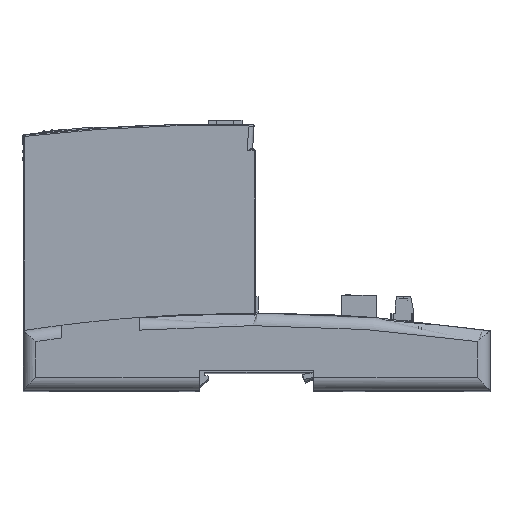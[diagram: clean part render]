
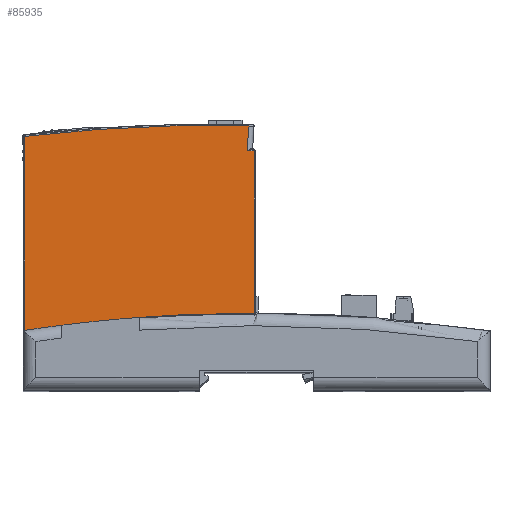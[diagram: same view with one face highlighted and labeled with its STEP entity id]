
A CAD part, top view. The second image highlights one B-rep face of the part: STEP entity #85935.
In plain terms, the highlighted planar face has unit normal (0, 0, 1).
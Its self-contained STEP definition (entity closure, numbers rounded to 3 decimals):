
#8040=DIRECTION('',(0.,1.,0.));
#8041=VECTOR('',#8040,2.4);
#8042=CARTESIAN_POINT('',(152.7,18.7,25.2));
#8043=LINE('',#8042,#8041);
#15013=DIRECTION('',(1.,0.,0.));
#15014=VECTOR('',#15013,3.);
#15015=CARTESIAN_POINT('',(0.6,23.1,25.197));
#15016=LINE('',#15015,#15014);
#15079=DIRECTION('',(0.,-1.,0.));
#15080=VECTOR('',#15079,74.756);
#15081=CARTESIAN_POINT('',(0.6,97.856,25.196));
#15082=LINE('',#15081,#15080);
#15321=CARTESIAN_POINT('',(86.601,92.3,25.196));
#15347=DIRECTION('',(1.,0.,-0.001));
#15348=VECTOR('',#15347,3.);
#15349=CARTESIAN_POINT('',(30.6,21.1,25.2));
#15350=LINE('',#15349,#15348);
#15351=DIRECTION('',(-1.,0.,0.));
#15352=VECTOR('',#15351,25.);
#15353=CARTESIAN_POINT('',(28.6,21.1,25.197));
#15354=LINE('',#15353,#15352);
#15355=DIRECTION('',(0.,1.,0.));
#15356=VECTOR('',#15355,2.);
#15357=CARTESIAN_POINT('',(3.6,21.1,25.197));
#15358=LINE('',#15357,#15356);
#15359=CARTESIAN_POINT('',(71.564,-497.429,25.195));
#15360=DIRECTION('',(0.,0.,-1.));
#15361=DIRECTION('',(-0.118,0.993,0.));
#15362=AXIS2_PLACEMENT_3D('',#15359,#15360,#15361);
#15364=CARTESIAN_POINT('',(178.6,92.8,25.195));
#15365=DIRECTION('',(0.,0.,1.));
#15366=DIRECTION('',(-0.995,0.099,0.));
#15367=AXIS2_PLACEMENT_3D('',#15364,#15365,#15366);
#15369=DIRECTION('',(1.,0.,0.));
#15370=VECTOR('',#15369,2.499);
#15371=CARTESIAN_POINT('',(86.601,92.3,25.196));
#15372=LINE('',#15371,#15370);
#15373=DIRECTION('',(0.,-1.,0.));
#15374=VECTOR('',#15373,71.2);
#15375=CARTESIAN_POINT('',(89.1,92.3,25.196));
#15376=LINE('',#15375,#15374);
#15377=DIRECTION('',(1.,0.,0.));
#15378=VECTOR('',#15377,63.6);
#15379=CARTESIAN_POINT('',(89.1,21.1,25.198));
#15380=LINE('',#15379,#15378);
#15381=DIRECTION('',(-1.,0.,0.));
#15382=VECTOR('',#15381,122.1);
#15383=CARTESIAN_POINT('',(152.7,18.7,25.2));
#15384=LINE('',#15383,#15382);
#15385=DIRECTION('',(0.,1.,0.));
#15386=VECTOR('',#15385,2.4);
#15387=CARTESIAN_POINT('',(30.6,18.7,25.2));
#15388=LINE('',#15387,#15386);
#15393=DIRECTION('',(0.,-1.,0.001));
#15394=VECTOR('',#15393,2.);
#15395=CARTESIAN_POINT('',(33.6,23.1,25.197));
#15396=LINE('',#15395,#15394);
#15397=DIRECTION('',(1.,0.,0.));
#15398=VECTOR('',#15397,5.);
#15399=CARTESIAN_POINT('',(28.6,23.1,25.197));
#15400=LINE('',#15399,#15398);
#15417=DIRECTION('',(0.,1.,0.));
#15418=VECTOR('',#15417,2.);
#15419=CARTESIAN_POINT('',(28.6,21.1,25.197));
#15420=LINE('',#15419,#15418);
#53584=CARTESIAN_POINT('',(30.6,18.7,25.2));
#53585=VERTEX_POINT('',#53584);
#53654=CARTESIAN_POINT('',(30.6,21.1,25.2));
#53656=VERTEX_POINT('',#53654);
#53682=CARTESIAN_POINT('',(152.7,18.7,25.2));
#53683=VERTEX_POINT('',#53682);
#53684=CARTESIAN_POINT('',(152.7,21.1,25.2));
#53685=VERTEX_POINT('',#53684);
#55425=CARTESIAN_POINT('',(3.6,21.1,25.197));
#55427=VERTEX_POINT('',#55425);
#55430=CARTESIAN_POINT('',(28.6,21.1,25.197));
#55432=VERTEX_POINT('',#55430);
#55435=CARTESIAN_POINT('',(3.6,23.1,25.197));
#55437=VERTEX_POINT('',#55435);
#56720=CARTESIAN_POINT('',(0.6,97.856,25.195));
#56721=VERTEX_POINT('',#56720);
#56722=CARTESIAN_POINT('',(87.048,101.871,25.195));
#56723=VERTEX_POINT('',#56722);
#56728=VERTEX_POINT('',#15321);
#56729=CARTESIAN_POINT('',(89.1,92.3,25.195));
#56730=VERTEX_POINT('',#56729);
#56731=CARTESIAN_POINT('',(28.6,23.1,25.197));
#56732=CARTESIAN_POINT('',(33.6,23.1,25.197));
#56733=VERTEX_POINT('',#56731);
#56734=VERTEX_POINT('',#56732);
#56735=CARTESIAN_POINT('',(0.6,23.1,25.197));
#56736=VERTEX_POINT('',#56735);
#64386=CARTESIAN_POINT('',(89.1,21.1,25.195));
#64387=VERTEX_POINT('',#64386);
#64404=CARTESIAN_POINT('',(33.6,21.1,25.198));
#64405=VERTEX_POINT('',#64404);
#85903=CARTESIAN_POINT('',(91.65,19.9,25.2));
#85904=DIRECTION('',(0.,0.,1.));
#85905=DIRECTION('',(1.,0.,0.));
#85906=AXIS2_PLACEMENT_3D('',#85903,#85904,#85905);
#85907=PLANE('',#85906);
#85908=ORIENTED_EDGE('',*,*,#75927,.T.);
#85910=ORIENTED_EDGE('',*,*,#85909,.F.);
#85912=ORIENTED_EDGE('',*,*,#85911,.F.);
#85914=ORIENTED_EDGE('',*,*,#85913,.F.);
#85916=ORIENTED_EDGE('',*,*,#85915,.T.);
#85918=ORIENTED_EDGE('',*,*,#85917,.T.);
#85919=ORIENTED_EDGE('',*,*,#85067,.F.);
#85920=ORIENTED_EDGE('',*,*,#85105,.F.);
#85922=ORIENTED_EDGE('',*,*,#85921,.T.);
#85923=ORIENTED_EDGE('',*,*,#85894,.T.);
#85925=ORIENTED_EDGE('',*,*,#85924,.T.);
#85927=ORIENTED_EDGE('',*,*,#85926,.T.);
#85928=ORIENTED_EDGE('',*,*,#75913,.T.);
#85929=ORIENTED_EDGE('',*,*,#75899,.F.);
#85930=ORIENTED_EDGE('',*,*,#76250,.T.);
#85932=ORIENTED_EDGE('',*,*,#85931,.T.);
#85933=EDGE_LOOP('',(#85908,#85910,#85912,#85914,#85916,#85918,#85919,#85920,
#85922,#85923,#85925,#85927,#85928,#85929,#85930,#85932));
#85934=FACE_OUTER_BOUND('',#85933,.F.);
#15363=CIRCLE('',#15362,599.5);
#15368=CIRCLE('',#15367,92.);
#75899=EDGE_CURVE('',#53683,#53685,#8043,.T.);
#75913=EDGE_CURVE('',#64387,#53685,#15380,.T.);
#75927=EDGE_CURVE('',#53656,#64405,#15350,.T.);
#76250=EDGE_CURVE('',#53683,#53585,#15384,.T.);
#85067=EDGE_CURVE('',#56736,#55437,#15016,.T.);
#85105=EDGE_CURVE('',#56721,#56736,#15082,.T.);
#85894=EDGE_CURVE('',#56723,#56728,#15368,.T.);
#85909=EDGE_CURVE('',#56734,#64405,#15396,.T.);
#85911=EDGE_CURVE('',#56733,#56734,#15400,.T.);
#85913=EDGE_CURVE('',#55432,#56733,#15420,.T.);
#85915=EDGE_CURVE('',#55432,#55427,#15354,.T.);
#85917=EDGE_CURVE('',#55427,#55437,#15358,.T.);
#85921=EDGE_CURVE('',#56721,#56723,#15363,.T.);
#85924=EDGE_CURVE('',#56728,#56730,#15372,.T.);
#85926=EDGE_CURVE('',#56730,#64387,#15376,.T.);
#85931=EDGE_CURVE('',#53585,#53656,#15388,.T.);
#85935=ADVANCED_FACE('',(#85934),#85907,.T.);
